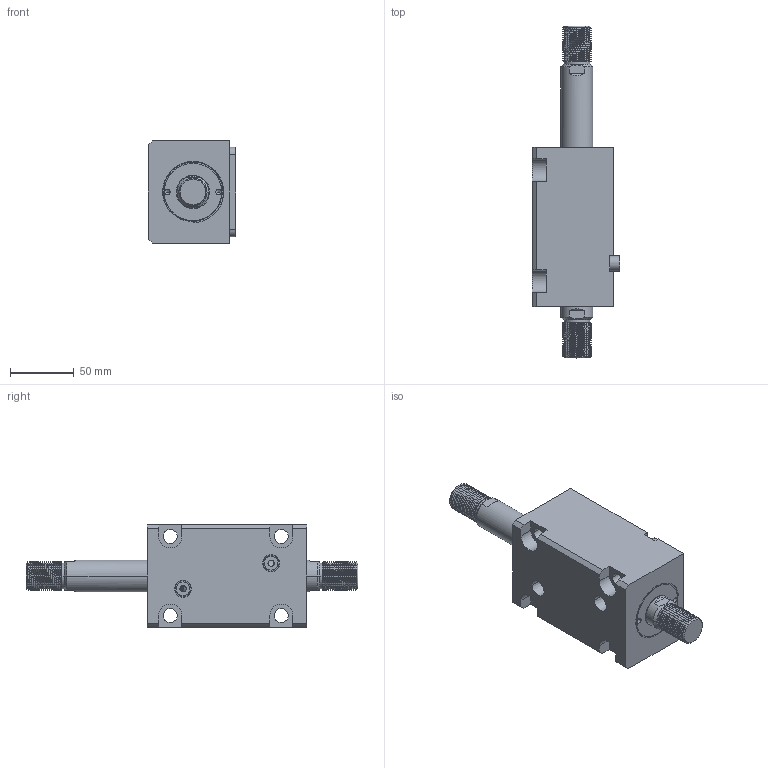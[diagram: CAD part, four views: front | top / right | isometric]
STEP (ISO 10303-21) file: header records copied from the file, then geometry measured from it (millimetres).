
FILE_DESCRIPTION (( 'STEP AP214' ), '1' );
FILE_NAME ('chtb-lw40x55w_asm.STEP', '2018-06-04T08:08:05', ( 'Windows' ), ( 'Microsoft' ), 'SwSTEP 2.0', 'SolidWorks 2015', '' );
FILE_SCHEMA (( 'AUTOMOTIVE_DESIGN' ));
Length unit declared in the file: millimetre
Products named in the file (5): CHTB-SD40QG; CHTB-LW40X55NBT; CHTB-LA40PJ; chtb-lw40x55w_asm; CHTB-SW40X55NHSG
Assembly tree (4 placements, depth 2):
  chtb-lw40x55w_asm
    CHTB-LA40PJ
    CHTB-LW40X55NBT
    CHTB-SD40QG
    CHTB-SW40X55NHSG
Bounding box: 68.5 x 260 x 80 mm (x, y, z)
Volume: 619440.2 mm3; surface area: 108370 mm2
Topology: 4 solids, 4 shells, 258 faces, 711 edges, 473 vertices
Faces by surface type: cylinder 152, plane 59, bspline 18, cone 17, torus 12
Entity records: 17539 total; most frequent: CARTESIAN_POINT 11292, ORIENTED_EDGE 1410, DIRECTION 1124, EDGE_CURVE 705, VERTEX_POINT 473, AXIS2_PLACEMENT_3D 433, EDGE_LOOP 292, FACE_OUTER_BOUND 258
